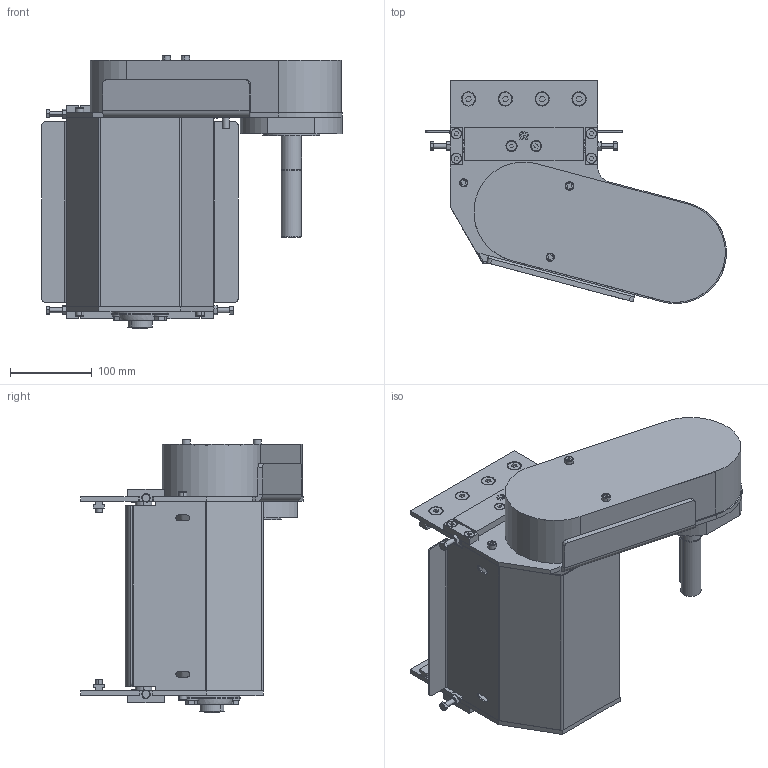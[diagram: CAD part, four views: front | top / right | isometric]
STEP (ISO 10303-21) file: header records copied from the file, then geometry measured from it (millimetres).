
FILE_DESCRIPTION (( 'STEP AP203' ), '1' );
FILE_NAME ('084.050.KCRD.49.200.STEP', '2020-01-24T08:12:50', ( 'Localadmin' ), ( 'Microsoft' ), 'SwSTEP 2.0', 'SolidWorks 2018', '' );
FILE_SCHEMA (( 'CONFIG_CONTROL_DESIGN' ));
Length unit declared in the file: millimetre
Products named in the file (38): 084.810.003; VITI TE UNI 5739_M6x50 UNI 5739; 084.802.003-1; 084.810.007; 084.817.027; 084.050.KCRD.49.200; DADI ESAGONALI NORMALI UNI 5588_M6 UNI 5588; 084.802.004-1; 084.814.007; 084.817.025_Default<A macchina>; VITI TCEI UNI 5931_M6x70 UNI 5931; 084.802.011; 084.813.008; 084.802.012; RONDELLE UNI 6592_8.4x17 UNI 6592; CHIAVETTE_A 8x7x70 UNI 6604-69; 084.812.003; 084.307.006; VITI TE UNI 5739_M8x12 UNI 5739; CHIAVETTE_A 8x7x25 UNI 6604-69; 084.821.002; 084.809.006_Default<A macchina>; 084.821.009; VITI TSEI UNI 5933_M6x16 UNI 5933; CUSCINETTI A SFERE_6004-2RS; 084.802.021; 084.810.009; 084.802.052; VITI TSEI UNI 5933_M8x20 UNI 5933; SBPFL 205; 084.802.020; CUSCINETTI A SFERE_608-2RS; 084.817.026; VITI TE UNI 5739_M8x30 UNI 5739; VITI TCEI UNI 5931_M6x20 UNI 5931; 084.802.049; Circlip DIN 471 - 8 x 0.8_Circlip DIN 471 - 8 x 0.8; 084.817.028
Assembly tree (90 placements, depth 3):
  084.050.KCRD.49.200
    084.821.009
    084.802.052  x2
    084.817.026
    084.817.028  x2
    084.817.027  x2
    084.817.025_Default<A macchina>
    084.802.012  x2
    084.307.006  x2
    084.809.006_Default<A macchina>
    084.810.007
      084.810.009
      CUSCINETTI A SFERE_608-2RS  x3
      Circlip DIN 471 - 8 x 0.8_Circlip DIN 471 - 8 x 0.8
    084.814.007
    084.813.008
    084.812.003
    084.821.002  x2
    084.802.021
    084.802.020
    084.802.049
    084.802.003-1
    084.802.004-1  x4
    084.802.011
    CHIAVETTE_A 8x7x70 UNI 6604-69
    CHIAVETTE_A 8x7x25 UNI 6604-69  x2
    CUSCINETTI A SFERE_6004-2RS  x4
    SBPFL 205
    VITI TCEI UNI 5931_M6x20 UNI 5931  x4
    VITI TE UNI 5739_M6x50 UNI 5739  x4
    DADI ESAGONALI NORMALI UNI 5588_M6 UNI 5588  x4
    VITI TCEI UNI 5931_M6x70 UNI 5931  x2
    RONDELLE UNI 6592_8.4x17 UNI 6592  x4
    VITI TE UNI 5739_M8x12 UNI 5739  x4
    VITI TSEI UNI 5933_M6x16 UNI 5933  x12
    VITI TSEI UNI 5933_M8x20 UNI 5933  x8
    VITI TE UNI 5739_M8x30 UNI 5739  x4
    084.810.003  x2
Bounding box: 367.47 x 272.33 x 334 mm (x, y, z)
Volume: 2700295.4 mm3; surface area: 1343259.6 mm2
Topology: 149 solids, 149 shells, 2998 faces, 7161 edges, 4586 vertices
Faces by surface type: plane 1454, cylinder 995, cone 417, torus 112, sphere 20
Entity records: 59317 total; most frequent: CARTESIAN_POINT 9886, DIRECTION 9675, ORIENTED_EDGE 8686, EDGE_CURVE 4343, AXIS2_PLACEMENT_3D 3551, VERTEX_POINT 2818, LINE 2573, VECTOR 2573
